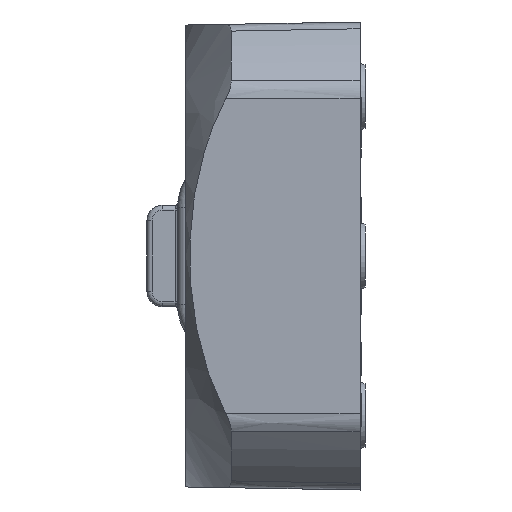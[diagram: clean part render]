
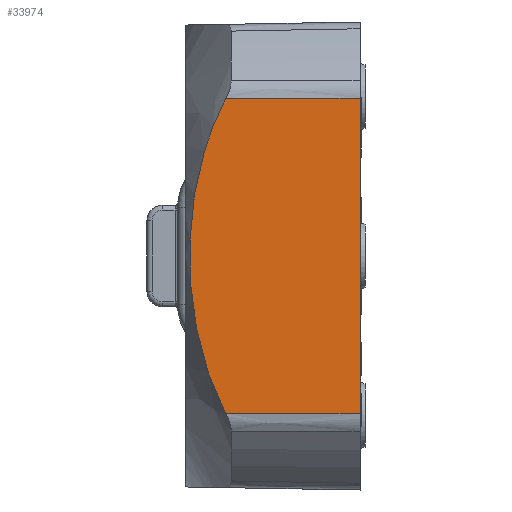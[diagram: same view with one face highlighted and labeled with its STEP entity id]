
A CAD part, left-side view. The second image highlights one B-rep face of the part: STEP entity #33974.
In plain terms, the highlighted planar face has unit normal (-1, 0.018, 0).
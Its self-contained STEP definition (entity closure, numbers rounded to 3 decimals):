
#20 = AXIS2_PLACEMENT_3D ( 'NONE', #20085, #47298, #28336 ) ;
#2150 = ORIENTED_EDGE ( 'NONE', *, *, #7939, .T. ) ;
#2668 = B_SPLINE_CURVE_WITH_KNOTS ( 'NONE', 3,
 ( #37636, #3557, #18698, #49143, #11283, #22678, #45634 ),
 .UNSPECIFIED., .F., .F.,
 ( 4, 3, 4 ),
 ( 0., 0.006, 0.013 ),
 .UNSPECIFIED. ) ;
#3557 = CARTESIAN_POINT ( 'NONE',  ( -25.954, 2.654, 15.838 ) ) ;
#3584 = DIRECTION ( 'NONE',  ( 0., 0., -1. ) ) ;
#3599 = CARTESIAN_POINT ( 'NONE',  ( -25.745, 14.633, -14.565 ) ) ;
#4955 = ORIENTED_EDGE ( 'NONE', *, *, #45157, .F. ) ;
#5944 = VECTOR ( 'NONE', #3584, 1000. ) ;
#6632 = EDGE_CURVE ( 'NONE', #8348, #17695, #2668, .T. ) ;
#7939 = EDGE_CURVE ( 'NONE', #26994, #37605, #28696, .T. ) ;
#8058 = CARTESIAN_POINT ( 'NONE',  ( -25.735, 15.159, 13.288 ) ) ;
#8348 = VERTEX_POINT ( 'NONE', #49311 ) ;
#10392 = B_SPLINE_CURVE_WITH_KNOTS ( 'NONE', 3,
 ( #30298, #3599, #42170, #26254, #30777, #37678, #41688, #11088, #41439, #30539, #37457, #15002, #11565, #48931, #49190, #15724, #45197, #18745, #8058, #19487, #26758, #19258 ),
 .UNSPECIFIED., .F., .F.,
 ( 4, 2, 2, 2, 2, 2, 2, 2, 2, 2, 4 ),
 ( 0.001, 0.005, 0.009, 0.013, 0.017, 0.021, 0.024, 0.026, 0.03, 0.032, 0.034 ),
 .UNSPECIFIED. ) ;
#11088 = CARTESIAN_POINT ( 'NONE',  ( -25.694, 17.535, -2.724 ) ) ;
#11283 = CARTESIAN_POINT ( 'NONE',  ( -25.838, 9.305, 15.799 ) ) ;
#11565 = CARTESIAN_POINT ( 'NONE',  ( -25.699, 17.234, 5.417 ) ) ;
#13687 = EDGE_LOOP ( 'NONE', ( #30001, #2150, #4955, #24071 ) ) ;
#15002 = CARTESIAN_POINT ( 'NONE',  ( -25.698, 17.323, 4.737 ) ) ;
#15724 = CARTESIAN_POINT ( 'NONE',  ( -25.713, 16.455, 9.422 ) ) ;
#16464 = CARTESIAN_POINT ( 'NONE',  ( -25.991, 0.5, -15.85 ) ) ;
#16843 = PLANE ( 'NONE',  #20 ) ;
#17695 = VERTEX_POINT ( 'NONE', #20482 ) ;
#18698 = CARTESIAN_POINT ( 'NONE',  ( -25.916, 4.809, 15.825 ) ) ;
#18745 = CARTESIAN_POINT ( 'NONE',  ( -25.731, 15.408, 12.652 ) ) ;
#19211 = CARTESIAN_POINT ( 'NONE',  ( -25.916, 4.809, -15.825 ) ) ;
#19258 = CARTESIAN_POINT ( 'NONE',  ( -25.756, 13.988, 15.772 ) ) ;
#19487 = CARTESIAN_POINT ( 'NONE',  ( -25.745, 14.611, 14.545 ) ) ;
#20085 = CARTESIAN_POINT ( 'NONE',  ( -26., 0., 16.82 ) ) ;
#20482 = CARTESIAN_POINT ( 'NONE',  ( -25.756, 13.988, 15.772 ) ) ;
#22678 = CARTESIAN_POINT ( 'NONE',  ( -25.797, 11.646, 15.785 ) ) ;
#24071 = ORIENTED_EDGE ( 'NONE', *, *, #6632, .T. ) ;
#25958 = CARTESIAN_POINT ( 'NONE',  ( -25.838, 9.305, -15.799 ) ) ;
#26254 = CARTESIAN_POINT ( 'NONE',  ( -25.719, 16.08, -10.757 ) ) ;
#26758 = CARTESIAN_POINT ( 'NONE',  ( -25.75, 14.312, 15.166 ) ) ;
#26994 = VERTEX_POINT ( 'NONE', #29575 ) ;
#28336 = DIRECTION ( 'NONE',  ( -0.017, -1., 0. ) ) ;
#28596 = FACE_OUTER_BOUND ( 'NONE', #13687, .T. ) ;
#28696 = B_SPLINE_CURVE_WITH_KNOTS ( 'NONE', 3,
 ( #38118, #41384, #25958, #30489, #19211, #30240, #37630 ),
 .UNSPECIFIED., .F., .F.,
 ( 4, 3, 4 ),
 ( 0., 0.007, 0.013 ),
 .UNSPECIFIED. ) ;
#29575 = CARTESIAN_POINT ( 'NONE',  ( -25.756, 13.988, -15.772 ) ) ;
#30001 = ORIENTED_EDGE ( 'NONE', *, *, #41359, .F. ) ;
#30240 = CARTESIAN_POINT ( 'NONE',  ( -25.954, 2.654, -15.838 ) ) ;
#30298 = CARTESIAN_POINT ( 'NONE',  ( -25.756, 13.988, -15.772 ) ) ;
#30489 = CARTESIAN_POINT ( 'NONE',  ( -25.878, 6.963, -15.813 ) ) ;
#30539 = CARTESIAN_POINT ( 'NONE',  ( -25.693, 17.607, 1.336 ) ) ;
#30777 = CARTESIAN_POINT ( 'NONE',  ( -25.713, 16.45, -9.443 ) ) ;
#33974 = ADVANCED_FACE ( 'NONE', ( #28596 ), #16843, .T. ) ;
#37457 = CARTESIAN_POINT ( 'NONE',  ( -25.694, 17.538, 2.694 ) ) ;
#37605 = VERTEX_POINT ( 'NONE', #16464 ) ;
#37630 = CARTESIAN_POINT ( 'NONE',  ( -25.991, 0.5, -15.85 ) ) ;
#37636 = CARTESIAN_POINT ( 'NONE',  ( -25.991, 0.5, 15.85 ) ) ;
#37678 = CARTESIAN_POINT ( 'NONE',  ( -25.703, 17.038, -6.763 ) ) ;
#38118 = CARTESIAN_POINT ( 'NONE',  ( -25.756, 13.988, -15.772 ) ) ;
#40922 = CARTESIAN_POINT ( 'NONE',  ( -25.991, 0.5, 16.82 ) ) ;
#41359 = EDGE_CURVE ( 'NONE', #26994, #17695, #10392, .T. ) ;
#41384 = CARTESIAN_POINT ( 'NONE',  ( -25.797, 11.646, -15.785 ) ) ;
#41439 = CARTESIAN_POINT ( 'NONE',  ( -25.693, 17.605, -1.373 ) ) ;
#41688 = CARTESIAN_POINT ( 'NONE',  ( -25.699, 17.251, -5.419 ) ) ;
#42170 = CARTESIAN_POINT ( 'NONE',  ( -25.735, 15.171, -13.317 ) ) ;
#44935 = LINE ( 'NONE', #40922, #5944 ) ;
#45157 = EDGE_CURVE ( 'NONE', #8348, #37605, #44935, .T. ) ;
#45197 = CARTESIAN_POINT ( 'NONE',  ( -25.719, 16.089, 10.729 ) ) ;
#45634 = CARTESIAN_POINT ( 'NONE',  ( -25.756, 13.988, 15.772 ) ) ;
#47298 = DIRECTION ( 'NONE',  ( -1., 0.017, 0. ) ) ;
#48931 = CARTESIAN_POINT ( 'NONE',  ( -25.703, 17.018, 6.764 ) ) ;
#49143 = CARTESIAN_POINT ( 'NONE',  ( -25.878, 6.963, 15.813 ) ) ;
#49190 = CARTESIAN_POINT ( 'NONE',  ( -25.705, 16.891, 7.432 ) ) ;
#49311 = CARTESIAN_POINT ( 'NONE',  ( -25.991, 0.5, 15.85 ) ) ;
